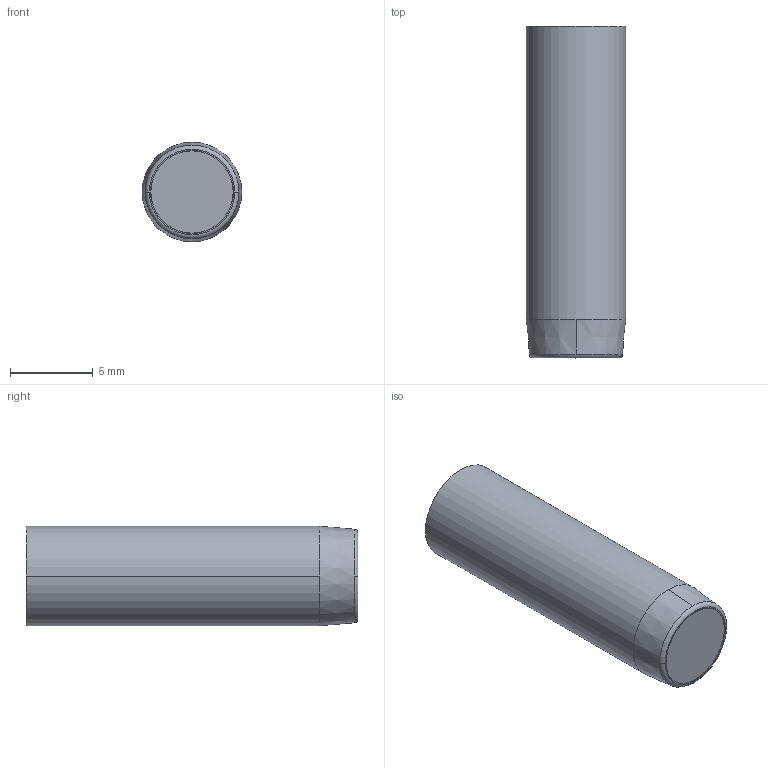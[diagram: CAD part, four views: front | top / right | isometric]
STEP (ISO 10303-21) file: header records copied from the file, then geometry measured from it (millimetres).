
FILE_DESCRIPTION (( 'STEP AP214' ), '1' );
FILE_NAME ('FA063200.STEP', '2013-06-28T07:29:34', ( '' ), ( '' ), 'SwSTEP 2.0', 'SolidWorks 2011', '' );
FILE_SCHEMA (( 'AUTOMOTIVE_DESIGN' ));
Length unit declared in the file: millimetre
Products named in the file (6): FA063200; IA 3217SF; 9FA 063200; FA 063200-3; FA 063200-1; FA 063200-2 - comprimido
Assembly tree (5 placements, depth 2):
  FA063200
    FA 063200-3
    FA 063200-2 - comprimido
    IA 3217SF
    9FA 063200
    FA 063200-1
Bounding box: 6 x 20 x 6 mm (x, y, z)
Volume: 470.2 mm3; surface area: 1122.4 mm2
Topology: 5 solids, 5 shells, 106 faces, 242 edges, 151 vertices
Faces by surface type: plane 44, cylinder 28, cone 22, torus 10, bspline 2
Entity records: 5036 total; most frequent: CARTESIAN_POINT 2351, DIRECTION 532, ORIENTED_EDGE 480, EDGE_CURVE 240, AXIS2_PLACEMENT_3D 216, VERTEX_POINT 151, EDGE_LOOP 121, FACE_OUTER_BOUND 106
